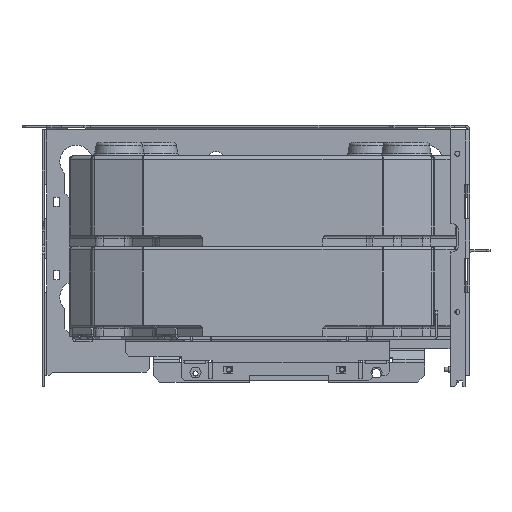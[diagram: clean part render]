
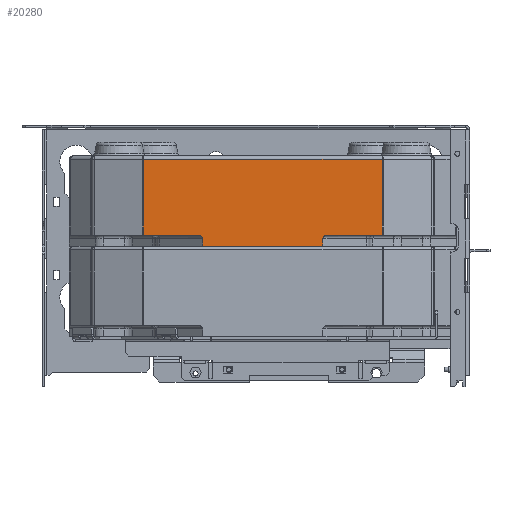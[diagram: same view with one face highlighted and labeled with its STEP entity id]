
A CAD part, left-side view. The second image highlights one B-rep face of the part: STEP entity #20280.
In plain terms, the highlighted planar face has unit normal (-1, 0, 0).
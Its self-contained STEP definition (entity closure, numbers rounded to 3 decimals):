
#100=ELLIPSE('',#22000,4.243,3.);
#101=ELLIPSE('',#22001,4.243,3.);
#4167=ORIENTED_EDGE('',*,*,#8588,.T.);
#4168=ORIENTED_EDGE('',*,*,#8589,.T.);
#4169=ORIENTED_EDGE('',*,*,#8590,.T.);
#4170=ORIENTED_EDGE('',*,*,#8591,.F.);
#4171=ORIENTED_EDGE('',*,*,#8592,.T.);
#4172=ORIENTED_EDGE('',*,*,#8593,.T.);
#4173=ORIENTED_EDGE('',*,*,#8594,.T.);
#4174=ORIENTED_EDGE('',*,*,#8595,.F.);
#4175=ORIENTED_EDGE('',*,*,#8596,.T.);
#4176=ORIENTED_EDGE('',*,*,#8597,.F.);
#8588=EDGE_CURVE('',#11028,#11029,#13175,.F.);
#8589=EDGE_CURVE('',#11029,#11030,#13176,.F.);
#8590=EDGE_CURVE('',#11030,#11031,#13177,.F.);
#8591=EDGE_CURVE('',#11032,#11031,#13178,.T.);
#8592=EDGE_CURVE('',#11032,#11033,#100,.F.);
#8593=EDGE_CURVE('',#11033,#11034,#13179,.T.);
#8594=EDGE_CURVE('',#11034,#11035,#13180,.T.);
#8595=EDGE_CURVE('',#11036,#11035,#13181,.T.);
#8596=EDGE_CURVE('',#11036,#11037,#101,.F.);
#8597=EDGE_CURVE('',#11028,#11037,#13182,.T.);
#11028=VERTEX_POINT('',#31390);
#11029=VERTEX_POINT('',#31391);
#11030=VERTEX_POINT('',#31393);
#11031=VERTEX_POINT('',#31395);
#11032=VERTEX_POINT('',#31397);
#11033=VERTEX_POINT('',#31399);
#11034=VERTEX_POINT('',#31401);
#11035=VERTEX_POINT('',#31403);
#11036=VERTEX_POINT('',#31405);
#11037=VERTEX_POINT('',#31407);
#13175=LINE('',#31389,#15314);
#13176=LINE('',#31392,#15315);
#13177=LINE('',#31394,#15316);
#13178=LINE('',#31396,#15317);
#13179=LINE('',#31400,#15318);
#13180=LINE('',#31402,#15319);
#13181=LINE('',#31404,#15320);
#13182=LINE('',#31408,#15321);
#15314=VECTOR('',#25541,1000.);
#15315=VECTOR('',#25542,1000.);
#15316=VECTOR('',#25543,1000.);
#15317=VECTOR('',#25544,1000.);
#15318=VECTOR('',#25547,1000.);
#15319=VECTOR('',#25548,1000.);
#15320=VECTOR('',#25549,1000.);
#15321=VECTOR('',#25552,1000.);
#16969=EDGE_LOOP('',(#4167,#4168,#4169,#4170,#4171,#4172,#4173,#4174,#4175,
#4176));
#18362=FACE_BOUND('',#16969,.T.);
#19454=PLANE('',#21999);
#20280=ADVANCED_FACE('',(#18362),#19454,.T.);
#21999=AXIS2_PLACEMENT_3D('',#31388,#25539,#25540);
#22000=AXIS2_PLACEMENT_3D('',#31398,#25545,#25546);
#22001=AXIS2_PLACEMENT_3D('',#31406,#25550,#25551);
#25539=DIRECTION('',(-1.,0.,0.));
#25540=DIRECTION('',(0.,-1.,0.));
#25541=DIRECTION('',(0.,0.,-1.));
#25542=DIRECTION('',(0.,-1.,0.));
#25543=DIRECTION('',(0.,0.,1.));
#25544=DIRECTION('',(0.,1.,0.));
#25545=DIRECTION('',(-1.,0.,0.));
#25546=DIRECTION('',(0.,-1.,0.));
#25547=DIRECTION('',(0.,0.,-1.));
#25548=DIRECTION('',(0.,-1.,0.));
#25549=DIRECTION('',(0.,0.,-1.));
#25550=DIRECTION('',(-1.,0.,0.));
#25551=DIRECTION('',(0.,-1.,0.));
#25552=DIRECTION('',(0.,1.,0.));
#31388=CARTESIAN_POINT('',(-186.799,106.1,0.));
#31389=CARTESIAN_POINT('',(-186.799,-105.571,0.));
#31390=CARTESIAN_POINT('',(-186.799,-105.571,10.));
#31391=CARTESIAN_POINT('',(-186.799,-105.571,77.));
#31392=CARTESIAN_POINT('',(-186.799,105.571,77.));
#31393=CARTESIAN_POINT('',(-186.799,105.571,77.));
#31394=CARTESIAN_POINT('',(-186.799,105.571,10.));
#31395=CARTESIAN_POINT('',(-186.799,105.571,10.));
#31396=CARTESIAN_POINT('',(-186.799,53.2,10.));
#31397=CARTESIAN_POINT('',(-186.799,57.443,10.));
#31398=CARTESIAN_POINT('',(-186.799,57.443,7.));
#31399=CARTESIAN_POINT('',(-186.799,53.2,7.));
#31400=CARTESIAN_POINT('',(-186.799,53.2,10.));
#31401=CARTESIAN_POINT('',(-186.799,53.2,0.));
#31402=CARTESIAN_POINT('',(-186.799,106.1,0.));
#31403=CARTESIAN_POINT('',(-186.799,-53.2,0.));
#31404=CARTESIAN_POINT('',(-186.799,-53.2,10.));
#31405=CARTESIAN_POINT('',(-186.799,-53.2,7.));
#31406=CARTESIAN_POINT('',(-186.799,-57.443,7.));
#31407=CARTESIAN_POINT('',(-186.799,-57.443,10.));
#31408=CARTESIAN_POINT('',(-186.799,-171.,10.));
